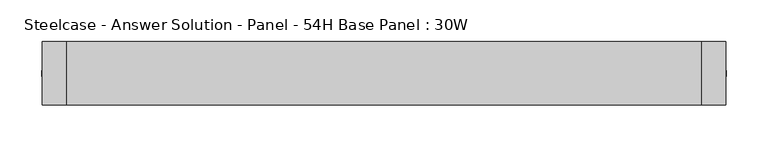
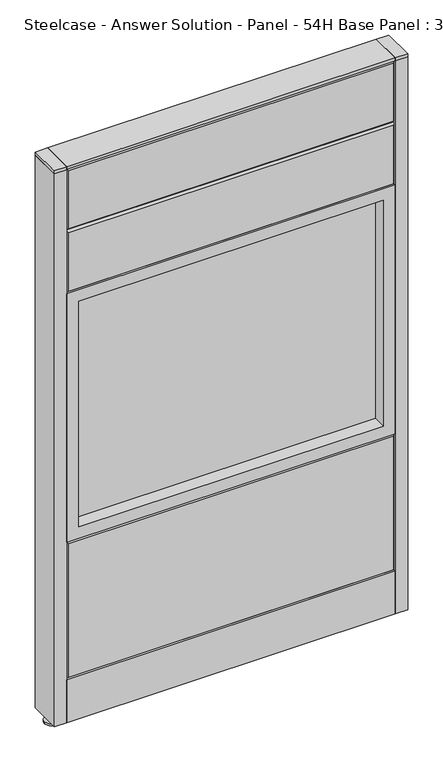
"""IFC4 building model written with IfcOpenShell, lengths in millimetres: furniture geometry, Steelcase - Answer Solution - Panel - 54H Base Panel : 30W."""

from ifc_helpers import new_model, si_unit, point, frame, frame_2d, origin, place, context, project, spatial, polyline, circle_curve, trimmed, segment, composite_curve, outline, extrude, faceted_brep, source, transform, mapped, element, save


def steelcase_answer_solution_panel_54h_base_panel_30w_b387c1d2(model_context):
    return source(origin(), model_context, "Body", "SolidModel", [
        extrude(outline(composite_curve([segment(trimmed(circle_curve(frame_2d((395.224, 0.0320214)), 5.08), [point((400.304, 0.0320214))], [point((390.144, 0.0320214))], False, "CARTESIAN"), True, "CONTINUOUS"), segment(trimmed(circle_curve(frame_2d((395.224, 0.0320214)), 5.08), [point((390.144, 0.0320214))], [point((400.304, 0.0320214))], False, "CARTESIAN"), True, "CONTINUOUS")], self_intersect=False)), frame((0.0, 0.0, 5.0799671), z_axis=(0.0, 0.0, 1.0), x_axis=(1.0, 0.0, 0.0)), (0.0, 0.0, 1.0), 10.414),
        extrude(outline(composite_curve([segment(trimmed(circle_curve(frame_2d((395.224, 0.0320214)), 15.24), [point((410.464, 0.0320214))], [point((379.984, 0.0320214))], False, "CARTESIAN"), True, "CONTINUOUS"), segment(trimmed(circle_curve(frame_2d((395.224, 0.0320214)), 15.24), [point((379.984, 0.0320214))], [point((410.464, 0.0320214))], False, "CARTESIAN"), True, "CONTINUOUS")], self_intersect=False)), frame((0.0, 0.0, -3.29e-05), z_axis=(0.0, 0.0, 1.0), x_axis=(1.0, 0.0, 0.0)), (0.0, 0.0, 1.0), 5.08),
        extrude(outline(polyline([(409.575, 38.1320408), (409.575, -38.0679592), (381.0, -38.0679592), (381.0, 38.1320408), (409.575, 38.1320408)])), frame((0.0, 0.0, 1370.6348), z_axis=(0.0, 0.0, 1.0), x_axis=(1.0, 0.0, 0.0)), (0.0, 0.0, 1.0), 7.3151671),
        extrude(outline(polyline([(409.575, 38.1320408), (409.575, -38.0679592), (381.0, -38.0679592), (381.0, 38.1320408), (409.575, 38.1320408)])), frame((0.0, 0.0, 15.4939671), z_axis=(0.0, 0.0, 1.0), x_axis=(1.0, 0.0, 0.0)), (0.0, 0.0, 1.0), 1355.1408329),
        extrude(outline(composite_curve([segment(trimmed(circle_curve(frame_2d((-395.224, 0.0320214)), 5.08), [point((-400.304, 0.0320214))], [point((-390.144, 0.0320214))], False, "CARTESIAN"), True, "CONTINUOUS"), segment(trimmed(circle_curve(frame_2d((-395.224, 0.0320214)), 5.08), [point((-390.144, 0.0320214))], [point((-400.304, 0.0320214))], False, "CARTESIAN"), True, "CONTINUOUS")], self_intersect=False)), frame((0.0, 0.0, 5.0799671), z_axis=(0.0, 0.0, 1.0), x_axis=(1.0, 0.0, 0.0)), (0.0, 0.0, 1.0), 10.414),
        extrude(outline(composite_curve([segment(trimmed(circle_curve(frame_2d((-395.224, 0.0320214)), 15.24), [point((-410.464, 0.0320214))], [point((-379.984, 0.0320214))], False, "CARTESIAN"), True, "CONTINUOUS"), segment(trimmed(circle_curve(frame_2d((-395.224, 0.0320214)), 15.24), [point((-379.984, 0.0320214))], [point((-410.464, 0.0320214))], False, "CARTESIAN"), True, "CONTINUOUS")], self_intersect=False)), frame((0.0, 0.0, -3.29e-05), z_axis=(0.0, 0.0, 1.0), x_axis=(1.0, 0.0, 0.0)), (0.0, 0.0, 1.0), 5.08),
        extrude(outline(polyline([(-409.575, 38.1320408), (-381.0, 38.1320408), (-381.0, -38.0679592), (-409.575, -38.0679592), (-409.575, 38.1320408)])), frame((0.0, 0.0, 1370.6348), z_axis=(0.0, 0.0, 1.0), x_axis=(1.0, 0.0, 0.0)), (0.0, 0.0, 1.0), 7.3151671),
        extrude(outline(polyline([(-409.575, 38.1320408), (-381.0, 38.1320408), (-381.0, -38.0679592), (-409.575, -38.0679592), (-409.575, 38.1320408)])), frame((0.0, 0.0, 15.4939671), z_axis=(0.0, 0.0, 1.0), x_axis=(1.0, 0.0, 0.0)), (0.0, 0.0, 1.0), 1355.1408329),
        extrude(outline(polyline([(-353.06, 6.346049), (353.06, 6.346049), (353.06, -6.353951), (-353.06, -6.353951), (-353.06, 6.346049)])), frame((0.0, 0.0, 485.14), z_axis=(0.0, 0.0, 1.0), x_axis=(1.0, 0.0, 0.0)), (0.0, 0.0, 1.0), 553.72),
        extrude(outline(polyline([(1066.8, -381.0), (457.2, -381.0), (457.2, 381.0), (1066.8, 381.0), (1066.8, -381.0)]), holes=[polyline([(1038.86, -353.06), (1038.86, 353.06), (485.14, 353.06), (485.14, -353.06), (1038.86, -353.06)])]), frame((0.0, -38.103951, 0.0), z_axis=(0.0, 1.0, 0.0), x_axis=(0.0, 0.0, 1.0)), (0.0, 0.0, 1.0), 76.2),
        faceted_brep([(-376.174, 38.1635011, 1366.774), (376.174, 38.1635011, 1366.774), (376.174, 38.1635011, 1224.026), (-376.174, 38.1635011, 1224.026), (-381.0, 33.3375011, 1371.6), (-381.0, 33.3375011, 1219.2), (381.0, 33.3375011, 1219.2), (381.0, 33.3375011, 1371.6)], [[[0, 1, 2, 3]], [[4, 5, 6, 7]], [[4, 7, 1, 0]], [[7, 6, 2, 1]], [[6, 5, 3, 2]], [[5, 4, 0, 3]]]),
        faceted_brep([(-376.174, 38.1635011, 1214.374), (376.174, 38.1635011, 1214.374), (376.174, 38.1635011, 1071.626), (-376.174, 38.1635011, 1071.626), (-381.0, 33.3375011, 1219.2), (-381.0, 33.3375011, 1066.8), (381.0, 33.3375011, 1066.8), (381.0, 33.3375011, 1219.2)], [[[0, 1, 2, 3]], [[4, 5, 6, 7]], [[4, 7, 1, 0]], [[7, 6, 2, 1]], [[6, 5, 3, 2]], [[5, 4, 0, 3]]]),
        faceted_brep([(-376.174, 38.1635011, 452.374), (376.174, 38.1635011, 452.374), (376.174, 38.1635011, 125.476), (-376.174, 38.1635011, 125.476), (-381.0, 33.3375011, 457.2), (-381.0, 33.3375011, 120.65), (381.0, 33.3375011, 120.65), (381.0, 33.3375011, 457.2)], [[[0, 1, 2, 3]], [[4, 5, 6, 7]], [[4, 7, 1, 0]], [[7, 6, 2, 1]], [[6, 5, 3, 2]], [[5, 4, 0, 3]]]),
        extrude(outline(polyline([(353.06, -6.346049), (-353.06, -6.346049), (-353.06, 6.353951), (353.06, 6.353951), (353.06, -6.346049)])), frame((0.0, 0.0, 485.14), z_axis=(0.0, 0.0, 1.0), x_axis=(1.0, 0.0, 0.0)), (0.0, 0.0, 1.0), 553.72),
        extrude(outline(polyline([(1066.8, 381.0), (1066.8, -381.0), (457.2, -381.0), (457.2, 381.0), (1066.8, 381.0)]), holes=[polyline([(1038.86, 353.06), (485.14, 353.06), (485.14, -353.06), (1038.86, -353.06), (1038.86, 353.06)])]), frame((0.0, -38.096049, 0.0), z_axis=(0.0, 1.0, 0.0), x_axis=(0.0, 0.0, 1.0)), (0.0, 0.0, 1.0), 76.2),
        faceted_brep([(376.174, -38.1635011, 1366.774), (-376.174, -38.1635011, 1366.774), (-376.174, -38.1635011, 1224.026), (376.174, -38.1635011, 1224.026), (381.0, -33.3375011, 1371.6), (381.0, -33.3375011, 1219.2), (-381.0, -33.3375011, 1219.2), (-381.0, -33.3375011, 1371.6)], [[[0, 1, 2, 3]], [[4, 5, 6, 7]], [[4, 7, 1, 0]], [[7, 6, 2, 1]], [[6, 5, 3, 2]], [[5, 4, 0, 3]]]),
        faceted_brep([(376.174, -38.1635011, 1214.374), (-376.174, -38.1635011, 1214.374), (-376.174, -38.1635011, 1071.626), (376.174, -38.1635011, 1071.626), (381.0, -33.3375011, 1219.2), (381.0, -33.3375011, 1066.8), (-381.0, -33.3375011, 1066.8), (-381.0, -33.3375011, 1219.2)], [[[0, 1, 2, 3]], [[4, 5, 6, 7]], [[4, 7, 1, 0]], [[7, 6, 2, 1]], [[6, 5, 3, 2]], [[5, 4, 0, 3]]]),
        faceted_brep([(376.174, -38.1635011, 452.374), (-376.174, -38.1635011, 452.374), (-376.174, -38.1635011, 125.476), (376.174, -38.1635011, 125.476), (381.0, -33.3375011, 457.2), (381.0, -33.3375011, 120.65), (-381.0, -33.3375011, 120.65), (-381.0, -33.3375011, 457.2)], [[[0, 1, 2, 3]], [[4, 5, 6, 7]], [[4, 7, 1, 0]], [[7, 6, 2, 1]], [[6, 5, 3, 2]], [[5, 4, 0, 3]]]),
        extrude(outline(polyline([(381.0, 38.1000194), (381.0, -38.1000194), (-381.0, -38.1000194), (-381.0, 38.1000194), (381.0, 38.1000194)])), frame((0.0, 0.0, 1371.6), z_axis=(0.0, 0.0, 1.0), x_axis=(1.0, 0.0, 0.0)), (0.0, 0.0, 1.0), 6.35),
        extrude(outline(polyline([(25.4000011, 119.8575157), (25.4000011, 120.65), (38.1000194, 120.65), (38.1000194, 15.494), (37.3075215, 15.494), (37.3075215, 119.8575157), (25.4000011, 119.8575157)])), frame((-381.0, 0.0, 0.0), z_axis=(1.0, 0.0, 0.0), x_axis=(0.0, 1.0, 0.0)), (0.0, 0.0, 1.0), 762.0),
        extrude(outline(polyline([(-25.4000011, 119.8575157), (-37.3075215, 119.8575157), (-37.3075215, 15.494), (-38.1000194, 15.494), (-38.1000194, 120.65), (-25.4000011, 120.65), (-25.4000011, 119.8575157)])), frame((-381.0, 0.0, 0.0), z_axis=(1.0, 0.0, 0.0), x_axis=(0.0, 1.0, 0.0)), (0.0, 0.0, 1.0), 762.0),
    ])


if __name__ == "__main__":
    model = new_model("IFC4")
    model_context = context("Model", 3, world=origin())
    ifc_project = project(units=[si_unit("LENGTHUNIT", "METRE", prefix="MILLI")], contexts=[model_context])
    site = spatial("IfcSite", under=ifc_project)
    building = spatial("IfcBuilding", under=site)
    placement = place(None, origin())
    steelcase_answer_solution_panel_54h_base_panel_30w_shape = steelcase_answer_solution_panel_54h_base_panel_30w_b387c1d2(model_context)
    element("IfcFurniture", 1, ObjectType="Steelcase - Answer Solution - Panel - 54H Base Panel : 30W", at=placement, inside=building, context=model_context, shape_type="MappedRepresentation", body=[
        mapped(steelcase_answer_solution_panel_54h_base_panel_30w_shape, transform((0.0, 0.0, 0.0), x_axis=(1.0, 0.0, 0.0), y_axis=(0.0, 1.0, 0.0), z_axis=(0.0, 0.0, 1.0))),
    ])
    save(model, "model.ifc")
